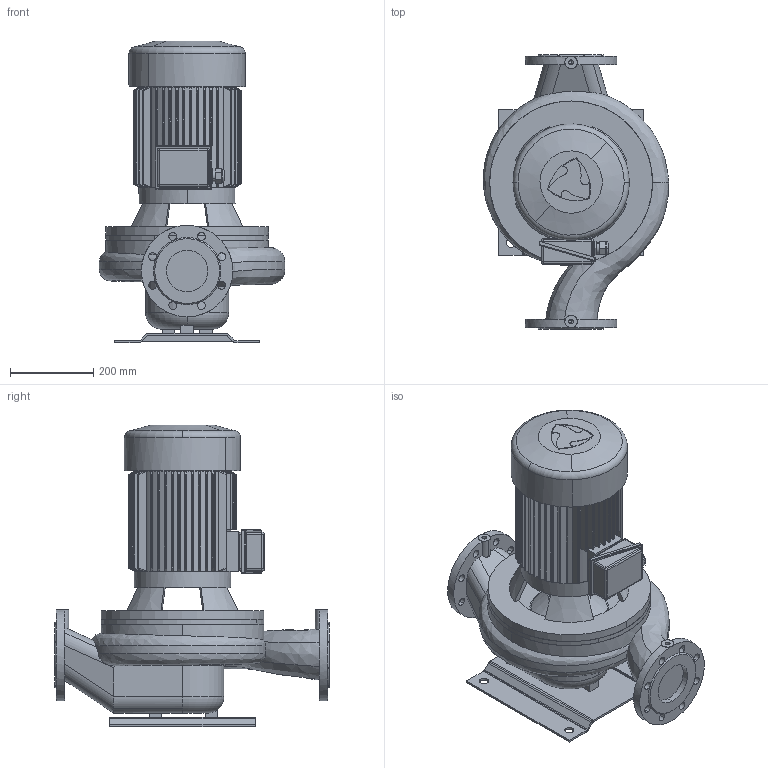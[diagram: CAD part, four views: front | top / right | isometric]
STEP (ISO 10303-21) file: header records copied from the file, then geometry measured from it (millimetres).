
FILE_DESCRIPTION(('STEP AP214'),'1');
FILE_NAME('export.stp','2018-05-29T07:52:55',(' '),(' '),'Spatial InterOp 3D',' ',' ');
FILE_SCHEMA(('AUTOMOTIVE_DESIGN { 1 0 10303 214 1 1 1 1 }'));
Length unit declared in the file: millimetre
Products named in the file (12): V_MOKN133; RU_OKN_133; TSUOJA_OKN_132_133; KYTKOTELO_OKN_100_133; V_MKP133-G2-F31; V_EKF31OKN132133; W_L100S4550-KP133; V_TLL100SAL1202; V_PPL100S; P100496; P100495; P100342
Assembly tree (12 placements, depth 4):
  W_L100S4550-KP133
    V_MKP133-G2-F31
      V_MOKN133
        RU_OKN_133
        TSUOJA_OKN_132_133
        KYTKOTELO_OKN_100_133
      V_EKF31OKN132133
    V_TLL100SAL1202
    V_PPL100S
    P100496
      P100495  x2
      P100342
Bounding box: 446.54 x 660 x 726.5 mm (x, y, z)
Volume: 44090959.2 mm3; surface area: 2546372.5 mm2
Topology: 9 solids, 10 shells, 750 faces, 1967 edges, 1229 vertices
Faces by surface type: cylinder 338, plane 270, cone 100, bspline 18, torus 12, sphere 12
Entity records: 40612 total; most frequent: CARTESIAN_POINT 9492, ORIENTED_EDGE 3866, DIRECTION 3666, STYLED_ITEM 2180, PRESENTATION_STYLE_ASSIGNMENT 2180, COLOUR_RGB 2180, EDGE_CURVE 1933, AXIS2_PLACEMENT_3D 1466
